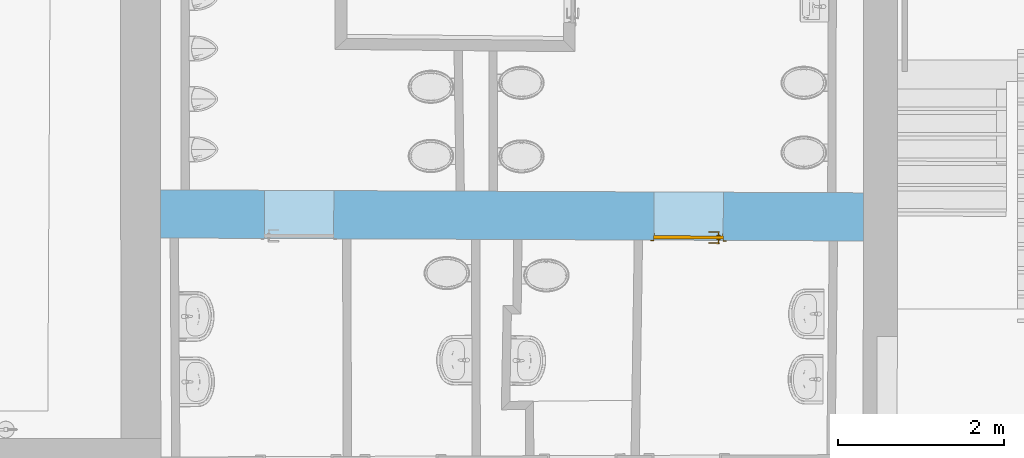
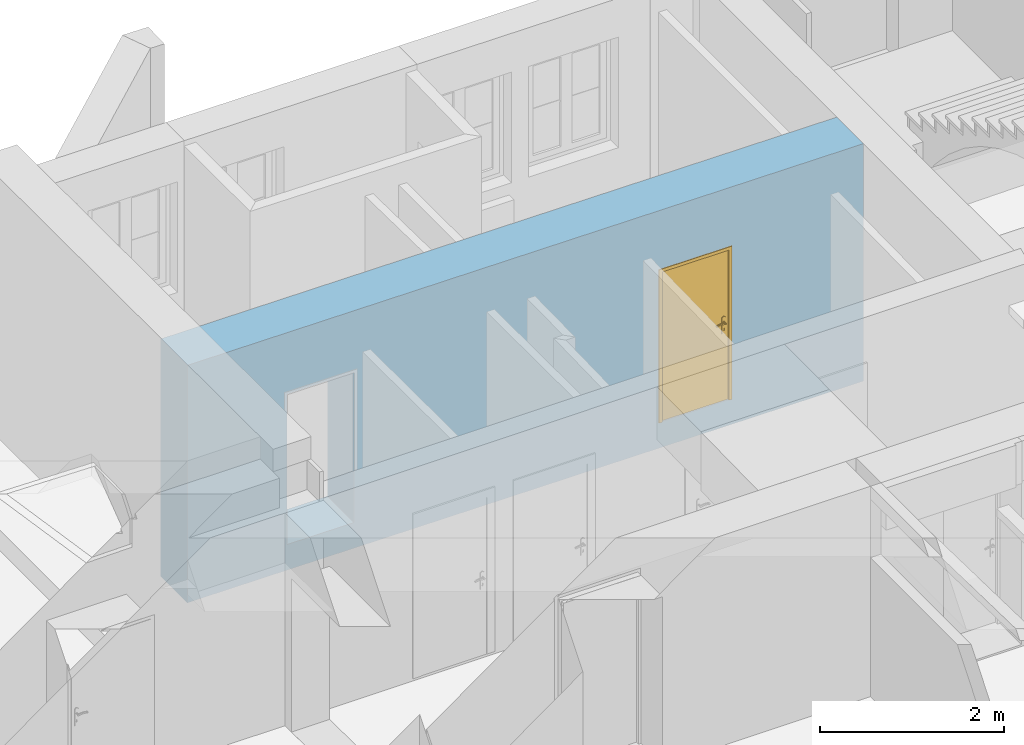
# One storey, part 100 of 196: 1 door, 2 openings, plus 1 element that does not belong to this part.
"""IFC2X3 building model written with IfcOpenShell, lengths in metres."""

from ifc_helpers import new_model, entity, si_unit, converted_unit, derived_unit, money_unit, direction, frame, origin_with_axes, origin_2d_with_axis, place, context, subcontext, project, spatial, polyline, rectangle, outline, extrude, faceted_brep, material, layer, layer_set, layer_usage, type_object, element, fill, save


model = new_model("IFC2X3")

# Units and contexts
model_context = context("Model", 3, precision=1e-05, world=origin_with_axes(), true_north=direction((0.0, 1.0)))
body_context = subcontext(model_context, "Body", "Model", "MODEL_VIEW")
ifc_project = project(units=[si_unit("LENGTHUNIT", "METRE"), si_unit("AREAUNIT", "SQUARE_METRE"), si_unit("VOLUMEUNIT", "CUBIC_METRE"), converted_unit("PLANEANGLEUNIT", "DEGREE", entity("IfcPlaneAngleMeasure", 0.0174532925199), si_unit("PLANEANGLEUNIT", "RADIAN"), dimensions=[0, 0, 0, 0, 0, 0, 0]), money_unit("EUR"), converted_unit("TIMEUNIT", "Year", entity("IfcTimeMeasure", 31556926.0), si_unit("TIMEUNIT", "SECOND"), dimensions=[0, 0, 1, 0, 0, 0, 0]), si_unit("MASSUNIT", "GRAM", prefix="KILO"), si_unit("THERMODYNAMICTEMPERATUREUNIT", "DEGREE_CELSIUS"), si_unit("LUMINOUSINTENSITYUNIT", "LUMEN"), si_unit("ENERGYUNIT", "JOULE", prefix="MEGA"), derived_unit("THERMALCONDUCTANCEUNIT", [(si_unit("POWERUNIT", "WATT"), 1), (si_unit("LENGTHUNIT", "METRE"), -1), (si_unit("THERMODYNAMICTEMPERATUREUNIT", "KELVIN"), -1)]), derived_unit("SPECIFICHEATCAPACITYUNIT", [(si_unit("ENERGYUNIT", "JOULE"), 1), (si_unit("MASSUNIT", "GRAM", prefix="KILO"), -1), (si_unit("THERMODYNAMICTEMPERATUREUNIT", "KELVIN"), -1)]), derived_unit("MASSDENSITYUNIT", [(si_unit("MASSUNIT", "GRAM", prefix="KILO"), 1), (si_unit("VOLUMEUNIT", "CUBIC_METRE"), -1)])], contexts=[model_context])

# Site, building, storey
site_placement = place(None, origin_with_axes())
site = spatial("IfcSite", under=ifc_project, at=site_placement, Name="Gelände", CompositionType="ELEMENT")
building_placement = place(site_placement, origin_with_axes())
building = spatial("IfcBuilding", under=site, at=building_placement, Name="Gebäude", CompositionType="ELEMENT")
storey_placement = place(building_placement, frame((0.0, 0.0, -3.0), z_axis=(0.0, 0.0, 1.0), x_axis=(1.0, 0.0, 0.0)))
storey = spatial("IfcBuildingStorey", under=building, at=storey_placement, Name="KELLERGESCHOSS", CompositionType="ELEMENT", Elevation=-3.0)

# Wall, openings, door
ifc_material = material(Name="05_ALLGEMEIN - TRAGENDE BAUTEILE")
ifc_layer = layer(ifc_material, 0.58, ventilated="UNKNOWN")
ifc_layer_set = layer_set([ifc_layer], Name="05_ALLGEMEIN - TRAGENDE BAUTEILE 0.58")
ifc_layer_usage = layer_usage(ifc_layer_set, "AXIS2", "NEGATIVE", 0.0)
wall_type = type_object("IfcWallType", Name="05_ALLGEMEIN - TRAGENDE BAUTEILE 580", PredefinedType="ELEMENTEDWALL")
wall_placement = place(storey_placement, frame((21.8972444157, 22.0792704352, -0.36), z_axis=(0.0, 0.0, 1.0), x_axis=(-0.999991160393, 0.00420465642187, 0.0)))
wall = element("IfcWallStandardCase", 1, at=wall_placement, inside=storey, type_object=wall_type, material=ifc_layer_usage, Name="Wand-038", ObjectType="ELEMENTEDWALL", context=body_context, shape_type="SweptSolid", body=[
    extrude(outline(polyline([(0.411684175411, -0.58), (8.87482240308, -0.58), (8.87189214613, 0.0), (0.41000172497, 0.0), (0.411684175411, -0.58)])), origin_with_axes(), (0.0, 0.0, 1.0), 3.14999999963),
])
opening_1_placement = place(wall_placement, frame((7.20628413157, 0.0, 0.339866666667), z_axis=(0.0, 0.0, 1.0), x_axis=(1.0, 0.0, 0.0)))
element("IfcOpeningElement", 2, at=opening_1_placement, cuts=wall, Name="Tür-022", context=body_context, shape_type="SweptSolid", body=[
    extrude(rectangle(XDim=0.83546436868, YDim=1.994988, at=origin_2d_with_axis()), frame((0.0, 0.58, 0.997494), z_axis=(0.0, 1.0, 0.0), x_axis=(-1.0, 0.0, 0.0)), (0.0, 0.0, -1.0), 1.74),
])
opening_2_placement = place(wall_placement, frame((2.51604504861, 0.0, 0.3401735), z_axis=(0.0, 0.0, 1.0), x_axis=(1.0, 0.0, 0.0)))
opening_2 = element("IfcOpeningElement", 3, at=opening_2_placement, cuts=wall, Name="Tür-022", context=body_context, shape_type="SweptSolid", body=[
    extrude(rectangle(XDim=0.835563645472, YDim=1.991635, at=origin_2d_with_axis()), frame((0.0, 0.58, 0.9958175), z_axis=(0.0, -1.0, 0.0), x_axis=(1.0, 0.0, 0.0)), (0.0, 0.0, 1.0), 1.74),
])
door_style = type_object("IfcDoorStyle", Name="Blockrahmentür 1-Fl 25", ConstructionType="NOTDEFINED", OperationType="SINGLE_SWING_RIGHT", ParameterTakesPrecedence=False, Sizeable=False)
door_placement = place(opening_2_placement, frame((-0.407281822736, 0.0, 0.0), z_axis=(0.0, 0.0, 1.0), x_axis=(1.0, 0.0, 0.0)))
door = element("IfcDoor", 4, at=door_placement, inside=storey, type_object=door_style, Name="Tür-022", ObjectType="NOTDEFINED", OverallHeight=1.99164, OverallWidth=0.835564, context=body_context, shape_type="Brep", body=[
    faceted_brep([(0.825063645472, -0.084, 0.0), (0.825063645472, -0.054, 0.0), (0.825063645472, -0.054, 1.991635), (0.825063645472, -0.084, 1.991635), (0.814563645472, -0.084, 0.0), (0.814563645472, -0.054, 0.0), (0.814563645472, -0.054, 1.981135), (0.522381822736, -0.054, 1.981135), (0.407381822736, -0.054, 1.981135), (0.0, -0.054, 1.981135), (0.0, -0.054, 0.0), (-0.0105, -0.054, 0.0), (-0.0105, -0.054, 1.991635), (-0.0105, -0.084, 1.991635), (-0.0105, -0.084, 0.0), (0.0, -0.084, 0.0), (0.0, -0.084, 1.981135), (0.407381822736, -0.084, 1.981135), (0.522381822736, -0.084, 1.981135), (0.814563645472, -0.084, 1.981135)], [[[0, 1, 2, 3]], [[4, 5, 1, 0]], [[1, 5, 6, 7, 8, 9, 10, 11, 12, 2]], [[3, 2, 12, 13]], [[0, 3, 13, 14, 15, 16, 17, 18, 19, 4]], [[19, 6, 5, 4]], [[18, 7, 6, 19]], [[17, 8, 7, 18]], [[16, 9, 8, 17]], [[15, 10, 9, 16]], [[14, 11, 10, 15]], [[13, 12, 11, 14]]]),
    faceted_brep([(0.825063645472, -0.054, 0.0), (0.825063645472, 0.011, 0.0), (0.829563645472, 0.011, 0.0), (0.829563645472, -0.054, 0.0), (0.825063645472, -0.054, 1.991635), (0.825063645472, 0.011, 1.991635), (-0.0105, 0.011, 1.991635), (-0.0105, 0.011, 0.0), (-0.015, 0.011, 0.0), (-0.015, 0.011, 1.996135), (0.422381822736, 0.011, 1.996135), (0.507381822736, 0.011, 1.996135), (0.829563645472, 0.011, 1.996135), (0.829563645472, -0.054, 1.996135), (0.507381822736, -0.054, 1.996135), (0.422381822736, -0.054, 1.996135), (-0.015, -0.054, 1.996135), (-0.015, -0.054, 0.0), (-0.0105, -0.054, 0.0), (-0.0105, -0.054, 1.991635)], [[[0, 1, 2, 3]], [[4, 5, 1, 0]], [[1, 5, 6, 7, 8, 9, 10, 11, 12, 2]], [[3, 2, 12, 13]], [[0, 3, 13, 14, 15, 16, 17, 18, 19, 4]], [[19, 6, 5, 4]], [[18, 7, 6, 19]], [[17, 8, 7, 18]], [[16, 9, 8, 17]], [[15, 10, 9, 16]], [[14, 11, 10, 15]], [[13, 12, 11, 14]]]),
    faceted_brep([(0.865063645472, 0.0, 0.0), (0.865063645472, 0.011, 0.0), (0.865063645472, 0.011, 2.031635), (0.865063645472, 0.0, 2.031635), (0.825063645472, 0.0, 0.0), (0.825063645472, 0.011, 0.0), (0.825063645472, 0.011, 1.991635), (-0.0105, 0.011, 1.991635), (-0.0105, 0.011, 0.0), (-0.0505, 0.011, 0.0), (-0.0505, 0.011, 2.031635), (-0.0505, 0.0, 2.031635), (-0.0505, 0.0, 0.0), (-0.0105, 0.0, 0.0), (-0.0105, 0.0, 1.991635), (0.825063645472, 0.0, 1.991635)], [[[0, 1, 2, 3]], [[4, 5, 1, 0]], [[1, 5, 6, 7, 8, 9, 10, 2]], [[3, 2, 10, 11]], [[0, 3, 11, 12, 13, 14, 15, 4]], [[15, 6, 5, 4]], [[14, 7, 6, 15]], [[13, 8, 7, 14]], [[12, 9, 8, 13]], [[11, 10, 9, 12]]]),
    faceted_brep([(0.829563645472, -0.014, 0.0), (-0.015, -0.014, 0.0), (-0.015, -0.014, 1.996135), (0.829563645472, -0.014, 1.996135), (0.829563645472, -0.054, 0.0), (-0.015, -0.054, 0.0), (-0.015, -0.054, 1.996135), (0.829563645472, -0.054, 1.996135)], [[[0, 1, 2, 3]], [[1, 0, 4, 5]], [[2, 1, 5, 6]], [[3, 2, 6, 7]], [[0, 3, 7, 4]], [[5, 4, 7, 6]]]),
    faceted_brep([(0.0402977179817, -0.094, 1.05647213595), (0.045, -0.094, 1.058), (0.045, -0.074, 1.058), (0.0402977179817, -0.074, 1.05647213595), (0.0373915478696, -0.094, 1.05247213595), (0.0373915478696, -0.094, 1.04752786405), (0.0402977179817, -0.094, 1.04352786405), (0.045, -0.094, 1.042), (0.0497022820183, -0.094, 1.04352786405), (0.0526084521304, -0.094, 1.04752786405), (0.0526084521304, -0.094, 1.05247213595), (0.0497022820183, -0.094, 1.05647213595), (0.0497022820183, -0.074, 1.05647213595), (0.045, -0.072, 1.06), (0.0391221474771, -0.072, 1.05809016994), (0.0373915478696, -0.074, 1.05247213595), (0.0373915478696, -0.074, 1.04752786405), (0.0402977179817, -0.074, 1.04352786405), (0.045, -0.074, 1.042), (0.0497022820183, -0.074, 1.04352786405), (0.0526084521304, -0.074, 1.04752786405), (0.0526084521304, -0.074, 1.05247213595), (0.0508778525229, -0.072, 1.05809016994), (0.045, -0.064, 1.06), (0.0391221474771, -0.064, 1.05809016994), (0.0354894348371, -0.072, 1.05309016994), (0.0354894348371, -0.072, 1.04690983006), (0.0391221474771, -0.072, 1.04190983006), (0.045, -0.072, 1.04), (0.0508778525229, -0.072, 1.04190983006), (0.054510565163, -0.072, 1.04690983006), (0.054510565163, -0.072, 1.05309016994), (0.0508778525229, -0.064, 1.05809016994), (0.054510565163, -0.064, 1.05309016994), (0.054510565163, -0.064, 1.04690983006), (0.0508778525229, -0.064, 1.04190983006), (0.045, -0.064, 1.04), (0.0391221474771, -0.064, 1.04190983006), (0.0354894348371, -0.064, 1.04690983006), (0.0354894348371, -0.064, 1.05309016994)], [[[0, 1, 2, 3]], [[1, 0, 4, 5, 6, 7, 8, 9, 10, 11]], [[1, 11, 12, 2]], [[3, 2, 13, 14]], [[4, 0, 3, 15]], [[5, 4, 15, 16]], [[6, 5, 16, 17]], [[7, 6, 17, 18]], [[8, 7, 18, 19]], [[9, 8, 19, 20]], [[10, 9, 20, 21]], [[11, 10, 21, 12]], [[2, 12, 22, 13]], [[14, 13, 23, 24]], [[15, 3, 14, 25]], [[16, 15, 25, 26]], [[17, 16, 26, 27]], [[18, 17, 27, 28]], [[19, 18, 28, 29]], [[20, 19, 29, 30]], [[21, 20, 30, 31]], [[12, 21, 31, 22]], [[13, 22, 32, 23]], [[23, 32, 33, 34, 35, 36, 37, 38, 39, 24]], [[25, 14, 24, 39]], [[26, 25, 39, 38]], [[27, 26, 38, 37]], [[28, 27, 37, 36]], [[29, 28, 36, 35]], [[30, 29, 35, 34]], [[31, 30, 34, 33]], [[22, 31, 33, 32]]]),
    faceted_brep([(0.0571883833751, -0.064, 1.11759695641), (0.0494435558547, -0.064, 1.12195567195), (0.0405564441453, -0.064, 1.12195567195), (0.0328116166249, -0.064, 1.11759695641), (0.0282, -0.064, 1.11), (0.0225, -0.064, 1.11), (0.0225, -0.064, 0.89), (0.0282, -0.064, 0.89), (0.0328116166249, -0.064, 0.882403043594), (0.0405564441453, -0.064, 0.878044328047), (0.0494435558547, -0.064, 0.878044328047), (0.0571883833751, -0.064, 0.882403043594), (0.0618, -0.064, 0.89), (0.0675, -0.064, 0.89), (0.0675, -0.064, 1.11), (0.0618, -0.064, 1.11), (0.045, -0.064, 0.967425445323), (0.050375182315, -0.064, 0.965143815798), (0.0524678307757, -0.064, 0.959692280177), (0.05, -0.064, 0.9544), (0.05, -0.064, 0.9375), (0.0485355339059, -0.064, 0.933964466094), (0.045, -0.064, 0.9325), (0.0414644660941, -0.064, 0.933964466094), (0.04, -0.064, 0.9375), (0.04, -0.064, 0.9544), (0.0375321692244, -0.064, 0.959692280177), (0.0396248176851, -0.064, 0.965143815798), (0.0571883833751, -0.054, 1.11759695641), (0.0494435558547, -0.054, 1.12195567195), (0.0405564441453, -0.054, 1.12195567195), (0.0328116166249, -0.054, 1.11759695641), (0.0282, -0.054, 1.11), (0.0225, -0.054, 1.11), (0.0225, -0.054, 0.89), (0.0282, -0.054, 0.89), (0.0328116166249, -0.054, 0.882403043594), (0.0405564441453, -0.054, 0.878044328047), (0.0494435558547, -0.054, 0.878044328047), (0.0571883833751, -0.054, 0.882403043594), (0.0618, -0.054, 0.89), (0.0675, -0.054, 0.89), (0.0675, -0.054, 1.11), (0.0618, -0.054, 1.11), (0.045, -0.054, 0.967425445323), (0.050375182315, -0.054, 0.965143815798), (0.0524678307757, -0.054, 0.959692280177), (0.05, -0.054, 0.9544), (0.05, -0.054, 0.9375), (0.0485355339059, -0.054, 0.933964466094), (0.045, -0.054, 0.9325), (0.0414644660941, -0.054, 0.933964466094), (0.04, -0.054, 0.9375), (0.04, -0.054, 0.9544), (0.0375321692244, -0.054, 0.959692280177), (0.0396248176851, -0.054, 0.965143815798)], [[[0, 1, 2, 3, 4, 5, 6, 7, 8, 9, 10, 11, 12, 13, 14, 15], [16, 17, 18, 19, 20, 21, 22, 23, 24, 25, 26, 27]], [[1, 0, 28, 29]], [[2, 1, 29, 30]], [[3, 2, 30, 31]], [[4, 3, 31, 32]], [[5, 4, 32, 33]], [[6, 5, 33, 34]], [[7, 6, 34, 35]], [[8, 7, 35, 36]], [[9, 8, 36, 37]], [[10, 9, 37, 38]], [[11, 10, 38, 39]], [[12, 11, 39, 40]], [[13, 12, 40, 41]], [[14, 13, 41, 42]], [[15, 14, 42, 43]], [[0, 15, 43, 28]], [[17, 16, 44, 45]], [[18, 17, 45, 46]], [[19, 18, 46, 47]], [[19, 47, 48, 20]], [[20, 48, 49, 21]], [[21, 49, 50, 22]], [[22, 50, 51, 23]], [[23, 51, 52, 24]], [[53, 25, 24, 52]], [[26, 25, 53, 54]], [[27, 26, 54, 55]], [[16, 27, 55, 44]], [[40, 39, 38, 37, 36, 35, 34, 33, 32, 31, 30, 29, 28, 43, 42, 41], [54, 53, 52, 51, 50, 49, 48, 47, 46, 45, 44, 55]]]),
    faceted_brep([(0.159253, -0.094, 1.057158), (0.159253, -0.109, 1.057158), (0.159254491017, -0.109, 1.05719388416), (0.159254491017, -0.094, 1.05719388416), (0.132225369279, -0.094, 1.06432652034), (0.132225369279, -0.109, 1.06432652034), (0.104397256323, -0.109, 1.06706086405), (0.0764912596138, -0.109, 1.06529002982), (0.049232, -0.109, 1.05906), (0.0428294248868, -0.109, 1.05976125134), (0.0373273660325, -0.109, 1.05641280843), (0.0350084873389, -0.109, 1.05040385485), (0.0368348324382, -0.109, 1.04422735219), (0.0420486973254, -0.109, 1.04044577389), (0.0484869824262, -0.109, 1.04062800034), (0.0534786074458, -0.109, 1.04469843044), (0.053458, -0.109, 1.044666), (0.0787467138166, -0.109, 1.05019878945), (0.104589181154, -0.109, 1.05171460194), (0.130351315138, -0.109, 1.04917624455), (0.155401, -0.109, 1.042646), (0.160944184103, -0.109, 1.04356849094), (0.16430572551, -0.109, 1.04807159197), (0.163614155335, -0.109, 1.05364829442), (0.163614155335, -0.094, 1.05364829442), (0.16430572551, -0.094, 1.04807159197), (0.160944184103, -0.094, 1.04356849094), (0.155401, -0.094, 1.042646), (0.130351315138, -0.094, 1.04917624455), (0.104589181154, -0.094, 1.05171460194), (0.0787467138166, -0.094, 1.05019878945), (0.053458, -0.094, 1.044666), (0.0534786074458, -0.094, 1.04469843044), (0.0484869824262, -0.094, 1.04062800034), (0.0420486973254, -0.094, 1.04044577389), (0.0368348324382, -0.094, 1.04422735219), (0.0350084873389, -0.094, 1.05040385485), (0.0373273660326, -0.094, 1.05641280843), (0.0428294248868, -0.094, 1.05976125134), (0.049232, -0.094, 1.05906), (0.0764912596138, -0.094, 1.06529002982), (0.104397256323, -0.094, 1.06706086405)], [[[0, 1, 2, 3]], [[4, 5, 1, 0]], [[1, 5, 6, 7, 8, 9, 10, 11, 12, 13, 14, 15, 16, 17, 18, 19, 20, 21, 22, 23, 2]], [[3, 2, 23, 24]], [[0, 3, 24, 25, 26, 27, 28, 29, 30, 31, 32, 33, 34, 35, 36, 37, 38, 39, 40, 41, 4]], [[41, 6, 5, 4]], [[40, 7, 6, 41]], [[39, 8, 7, 40]], [[38, 9, 8, 39]], [[37, 10, 9, 38]], [[36, 11, 10, 37]], [[35, 12, 11, 36]], [[34, 13, 12, 35]], [[33, 14, 13, 34]], [[32, 15, 14, 33]], [[31, 16, 15, 32]], [[30, 17, 16, 31]], [[29, 18, 17, 30]], [[28, 19, 18, 29]], [[27, 20, 19, 28]], [[26, 21, 20, 27]], [[25, 22, 21, 26]], [[24, 23, 22, 25]]]),
    faceted_brep([(0.0402977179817, 0.026, 1.05647213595), (0.0402977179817, 0.006, 1.05647213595), (0.045, 0.006, 1.058), (0.045, 0.026, 1.058), (0.0373915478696, 0.026, 1.05247213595), (0.0373915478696, 0.006, 1.05247213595), (0.0391221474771, 0.00399999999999, 1.05809016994), (0.045, 0.004, 1.06), (0.0497022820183, 0.006, 1.05647213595), (0.0497022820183, 0.026, 1.05647213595), (0.0526084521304, 0.026, 1.05247213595), (0.0526084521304, 0.026, 1.04752786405), (0.0497022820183, 0.026, 1.04352786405), (0.045, 0.026, 1.042), (0.0402977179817, 0.026, 1.04352786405), (0.0373915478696, 0.026, 1.04752786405), (0.0373915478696, 0.006, 1.04752786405), (0.0354894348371, 0.004, 1.05309016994), (0.0391221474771, -0.004, 1.05809016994), (0.045, -0.004, 1.06), (0.0508778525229, 0.00399999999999, 1.05809016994), (0.0526084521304, 0.006, 1.05247213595), (0.0526084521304, 0.006, 1.04752786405), (0.0497022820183, 0.006, 1.04352786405), (0.045, 0.006, 1.042), (0.0402977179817, 0.006, 1.04352786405), (0.0354894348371, 0.004, 1.04690983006), (0.0354894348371, -0.004, 1.05309016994), (0.0354894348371, -0.004, 1.04690983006), (0.0391221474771, -0.004, 1.04190983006), (0.045, -0.004, 1.04), (0.0508778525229, -0.004, 1.04190983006), (0.054510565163, -0.004, 1.04690983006), (0.054510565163, -0.004, 1.05309016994), (0.0508778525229, -0.004, 1.05809016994), (0.054510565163, 0.004, 1.05309016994), (0.054510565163, 0.004, 1.04690983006), (0.0508778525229, 0.00399999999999, 1.04190983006), (0.045, 0.004, 1.04), (0.0391221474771, 0.00399999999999, 1.04190983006)], [[[0, 1, 2, 3]], [[4, 5, 1, 0]], [[1, 6, 7, 2]], [[3, 2, 8, 9]], [[3, 9, 10, 11, 12, 13, 14, 15, 4, 0]], [[15, 16, 5, 4]], [[5, 17, 6, 1]], [[6, 18, 19, 7]], [[2, 7, 20, 8]], [[9, 8, 21, 10]], [[10, 21, 22, 11]], [[11, 22, 23, 12]], [[12, 23, 24, 13]], [[13, 24, 25, 14]], [[14, 25, 16, 15]], [[16, 26, 17, 5]], [[17, 27, 18, 6]], [[19, 18, 27, 28, 29, 30, 31, 32, 33, 34]], [[7, 19, 34, 20]], [[8, 20, 35, 21]], [[21, 35, 36, 22]], [[22, 36, 37, 23]], [[23, 37, 38, 24]], [[24, 38, 39, 25]], [[25, 39, 26, 16]], [[26, 28, 27, 17]], [[39, 29, 28, 26]], [[38, 30, 29, 39]], [[37, 31, 30, 38]], [[36, 32, 31, 37]], [[35, 33, 32, 36]], [[20, 34, 33, 35]]]),
    faceted_brep([(0.0571883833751, -0.014, 1.11759695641), (0.0494435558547, -0.014, 1.12195567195), (0.0405564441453, -0.014, 1.12195567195), (0.0328116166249, -0.014, 1.11759695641), (0.0282, -0.014, 1.11), (0.0225, -0.014, 1.11), (0.0225, -0.014, 0.89), (0.0282, -0.014, 0.89), (0.0328116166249, -0.014, 0.882403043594), (0.0405564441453, -0.014, 0.878044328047), (0.0494435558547, -0.014, 0.878044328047), (0.0571883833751, -0.014, 0.882403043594), (0.0618, -0.014, 0.89), (0.0675, -0.014, 0.89), (0.0675, -0.014, 1.11), (0.0618, -0.014, 1.11), (0.045, -0.014, 0.967425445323), (0.050375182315, -0.014, 0.965143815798), (0.0524678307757, -0.014, 0.959692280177), (0.05, -0.014, 0.9544), (0.05, -0.014, 0.9375), (0.0485355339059, -0.014, 0.933964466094), (0.045, -0.014, 0.9325), (0.0414644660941, -0.014, 0.933964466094), (0.04, -0.014, 0.9375), (0.04, -0.014, 0.9544), (0.0375321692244, -0.014, 0.959692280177), (0.0396248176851, -0.014, 0.965143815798), (0.0494435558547, -0.004, 1.12195567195), (0.0571883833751, -0.004, 1.11759695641), (0.0405564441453, -0.004, 1.12195567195), (0.0328116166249, -0.004, 1.11759695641), (0.0282, -0.004, 1.11), (0.0225, -0.004, 1.11), (0.0225, -0.004, 0.89), (0.0282, -0.004, 0.89), (0.0328116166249, -0.004, 0.882403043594), (0.0405564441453, -0.004, 0.878044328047), (0.0494435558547, -0.004, 0.878044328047), (0.0571883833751, -0.004, 0.882403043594), (0.0618, -0.004, 0.89), (0.0675, -0.004, 0.89), (0.0675, -0.004, 1.11), (0.0618, -0.004, 1.11), (0.045, -0.004, 0.967425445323), (0.050375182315, -0.004, 0.965143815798), (0.0524678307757, -0.004, 0.959692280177), (0.05, -0.004, 0.9544), (0.05, -0.004, 0.9375), (0.0485355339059, -0.004, 0.933964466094), (0.045, -0.004, 0.9325), (0.0414644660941, -0.004, 0.933964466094), (0.04, -0.004, 0.9375), (0.04, -0.004, 0.9544), (0.0375321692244, -0.004, 0.959692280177), (0.0396248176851, -0.004, 0.965143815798)], [[[0, 1, 2, 3, 4, 5, 6, 7, 8, 9, 10, 11, 12, 13, 14, 15], [16, 17, 18, 19, 20, 21, 22, 23, 24, 25, 26, 27]], [[28, 1, 0, 29]], [[30, 2, 1, 28]], [[31, 3, 2, 30]], [[32, 4, 3, 31]], [[33, 5, 4, 32]], [[34, 6, 5, 33]], [[35, 7, 6, 34]], [[36, 8, 7, 35]], [[37, 9, 8, 36]], [[38, 10, 9, 37]], [[39, 11, 10, 38]], [[40, 12, 11, 39]], [[41, 13, 12, 40]], [[42, 14, 13, 41]], [[43, 15, 14, 42]], [[29, 0, 15, 43]], [[17, 16, 44, 45]], [[18, 17, 45, 46]], [[19, 18, 46, 47]], [[19, 47, 48, 20]], [[20, 48, 49, 21]], [[21, 49, 50, 22]], [[22, 50, 51, 23]], [[23, 51, 52, 24]], [[53, 25, 24, 52]], [[26, 25, 53, 54]], [[27, 26, 54, 55]], [[16, 27, 55, 44]], [[40, 39, 38, 37, 36, 35, 34, 33, 32, 31, 30, 28, 29, 43, 42, 41], [54, 53, 52, 51, 50, 49, 48, 47, 46, 45, 44, 55]]]),
    faceted_brep([(0.159253, 0.026, 1.057158), (0.159254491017, 0.026, 1.05719388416), (0.159254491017, 0.041, 1.05719388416), (0.159253, 0.041, 1.057158), (0.132225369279, 0.026, 1.06432652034), (0.104397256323, 0.026, 1.06706086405), (0.0764912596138, 0.026, 1.06529002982), (0.049232, 0.026, 1.05906), (0.0428294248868, 0.026, 1.05976125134), (0.0373273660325, 0.026, 1.05641280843), (0.0350084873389, 0.026, 1.05040385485), (0.0368348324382, 0.026, 1.04422735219), (0.0420486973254, 0.026, 1.04044577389), (0.0484869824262, 0.026, 1.04062800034), (0.0534786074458, 0.026, 1.04469843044), (0.053458, 0.026, 1.044666), (0.0787467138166, 0.026, 1.05019878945), (0.104589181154, 0.026, 1.05171460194), (0.130351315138, 0.026, 1.04917624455), (0.155401, 0.026, 1.042646), (0.160944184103, 0.026, 1.04356849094), (0.16430572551, 0.026, 1.04807159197), (0.163614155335, 0.026, 1.05364829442), (0.163614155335, 0.041, 1.05364829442), (0.16430572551, 0.041, 1.04807159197), (0.160944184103, 0.041, 1.04356849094), (0.155401, 0.041, 1.042646), (0.130351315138, 0.041, 1.04917624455), (0.104589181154, 0.041, 1.05171460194), (0.0787467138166, 0.041, 1.05019878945), (0.053458, 0.041, 1.044666), (0.0534786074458, 0.041, 1.04469843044), (0.0484869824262, 0.041, 1.04062800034), (0.0420486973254, 0.041, 1.04044577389), (0.0368348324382, 0.041, 1.04422735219), (0.0350084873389, 0.041, 1.05040385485), (0.0373273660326, 0.041, 1.05641280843), (0.0428294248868, 0.041, 1.05976125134), (0.049232, 0.041, 1.05906), (0.0764912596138, 0.041, 1.06529002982), (0.104397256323, 0.041, 1.06706086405), (0.132225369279, 0.041, 1.06432652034)], [[[0, 1, 2, 3]], [[0, 4, 5, 6, 7, 8, 9, 10, 11, 12, 13, 14, 15, 16, 17, 18, 19, 20, 21, 22, 1]], [[1, 22, 23, 2]], [[3, 2, 23, 24, 25, 26, 27, 28, 29, 30, 31, 32, 33, 34, 35, 36, 37, 38, 39, 40, 41]], [[4, 0, 3, 41]], [[5, 4, 41, 40]], [[6, 5, 40, 39]], [[7, 6, 39, 38]], [[8, 7, 38, 37]], [[9, 8, 37, 36]], [[10, 9, 36, 35]], [[11, 10, 35, 34]], [[12, 11, 34, 33]], [[13, 12, 33, 32]], [[14, 13, 32, 31]], [[15, 14, 31, 30]], [[16, 15, 30, 29]], [[17, 16, 29, 28]], [[18, 17, 28, 27]], [[19, 18, 27, 26]], [[20, 19, 26, 25]], [[21, 20, 25, 24]], [[22, 21, 24, 23]]]),
])
fill(opening_2, door)

save(model, "model.ifc")
